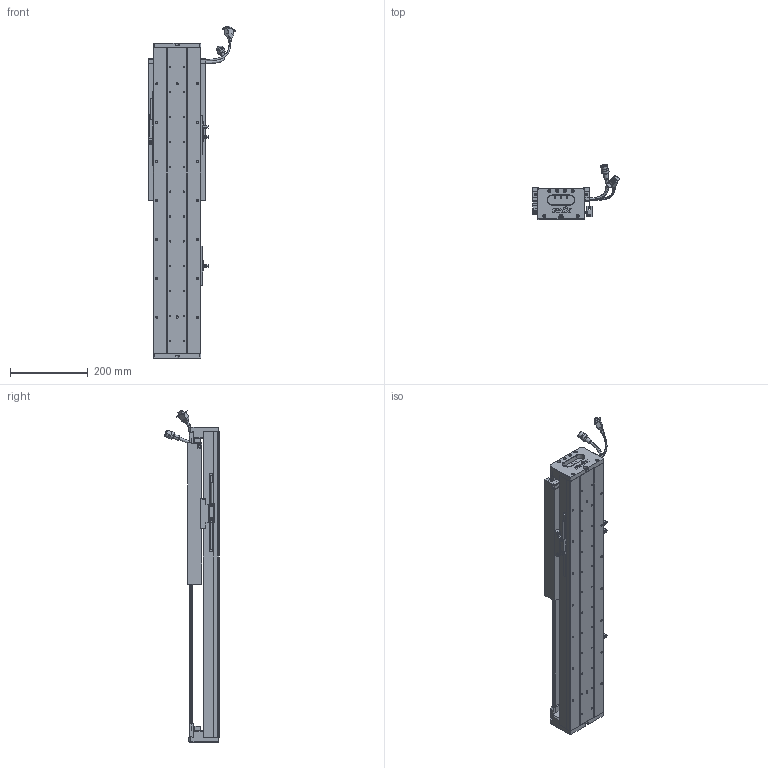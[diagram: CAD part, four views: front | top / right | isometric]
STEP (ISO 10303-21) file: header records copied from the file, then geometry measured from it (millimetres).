
FILE_DESCRIPTION (( 'STEP AP203' ), '1' );
FILE_NAME ('Z5-RY120D-1-L500-B-K.SLDASM_0350.step', '2021-05-17T06:21:08', ( '盈信电脑' ), ( '东莞市道滘镇水果街19号' ), 'SwSTEP 2.0', 'SolidWorks 2016', '' );
FILE_SCHEMA (( 'CONFIG_CONTROL_DESIGN' ));
Length unit declared in the file: millimetre
Products named in the file (37): Z-RY120D詩湍狟揤裔; SEAL; PBU_SHEET; Z5-RY120铝滑块（21款）; Z5-RY120D-1-L500-B-K.SLDASM_0350; Z5-RY120-500-倰第菁釱_0350; LABEL-Part-1; SCREW-M1.6-3; SCALE-Part-2; Z-120詩湍傷裔啣; SCREW-M1.6-2; RY100FB-遵嫖萇覜茼え; SEAL-Part-1; 覜茼ん672; COVER-Part-1; SCALE-Part-1; 140雄赽晤鎢ん堤盄; SCREW-M1.6-1; HARNESS-Part-1; 080黍杅芛假蚾釱21遴; SCALE; HARNESS-Part-2; SCREW-M1.6; COVER; SHIELDPLATE; 榋妏寠巭燃_暯_M2_2; HARNESS; Z-RY120D詩湍奻揤裔; HOLDER0; LABEL; Z5-RY120-L500詩湍100mm遵_0350; PSLH080_PSLF2; SCREW-M1.7-1; 120-Z-臏賑輸盄裔(21遴); SCREW-M1.7; 672嫖萇羲壽假蚾釱; 140蚥薯蝶輸
Assembly tree (43 placements, depth 4):
  Z5-RY120D-1-L500-B-K.SLDASM_0350
    Z5-RY120-500-倰第菁釱_0350
    覜茼ん672  x3
    672嫖萇羲壽假蚾釱  x2
    Z5-RY120铝滑块（21款）
    PSLH080_PSLF2
      SCALE
        SCALE-Part-1
        SCALE-Part-2
      HARNESS
        HARNESS-Part-1
        HARNESS-Part-2
      LABEL
        LABEL-Part-1
      COVER
        COVER-Part-1
      SEAL
        SEAL-Part-1
      榋妏寠巭燃_暯_M2_2
      SHIELDPLATE
      SCREW-M1.7
      SCREW-M1.7-1
      PBU_SHEET
      SCREW-M1.6
      SCREW-M1.6-1
      SCREW-M1.6-2
      SCREW-M1.6-3
      HOLDER0
    080黍杅芛假蚾釱21遴
    120-Z-臏賑輸盄裔(21遴)
    140雄赽晤鎢ん堤盄
    140蚥薯蝶輸  x2
    RY100FB-遵嫖萇覜茼え
    Z-120詩湍傷裔啣  x2
    Z-RY120D詩湍奻揤裔  x2
    Z-RY120D詩湍狟揤裔  x2
    Z5-RY120-L500詩湍100mm遵_0350
Bounding box: 222.88 x 140.94 x 854 mm (x, y, z)
Volume: 2957386.5 mm3; surface area: 910020.1 mm2
Topology: 38 solids, 38 shells, 2705 faces, 7193 edges, 4546 vertices
Faces by surface type: cylinder 1215, plane 1106, cone 262, torus 69, bspline 53
Entity records: 78896 total; most frequent: CARTESIAN_POINT 19913, DIRECTION 11505, ORIENTED_EDGE 11386, EDGE_CURVE 5693, AXIS2_PLACEMENT_3D 4224, VERTEX_POINT 3666, LINE 3057, VECTOR 3057
